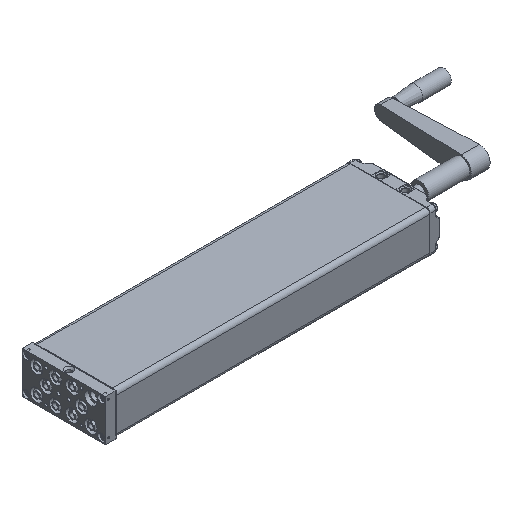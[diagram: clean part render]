
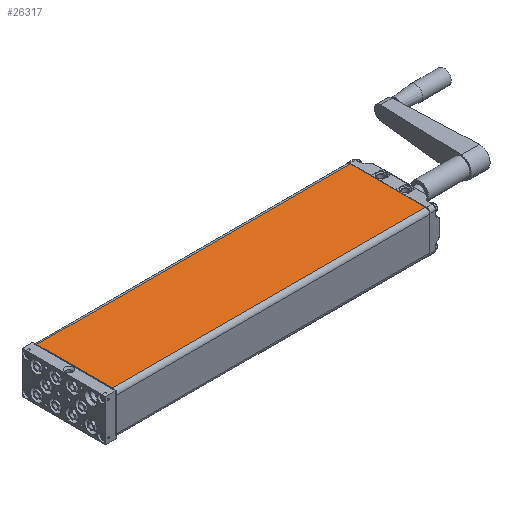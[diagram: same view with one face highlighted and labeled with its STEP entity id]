
A CAD part, isometric view. The second image highlights one B-rep face of the part: STEP entity #26317.
In plain terms, the highlighted planar face has unit normal (0, 0, 1).
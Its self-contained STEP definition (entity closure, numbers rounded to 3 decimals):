
#2480=LINE('',#63114,#3529);
#2481=LINE('',#63117,#3530);
#2482=LINE('',#63119,#3531);
#2483=LINE('',#63121,#3532);
#3529=VECTOR('',#32534,1000.);
#3530=VECTOR('',#32535,1000.);
#3531=VECTOR('',#32536,1000.);
#3532=VECTOR('',#32537,1000.);
#3945=PLANE('',#28126);
#8799=ORIENTED_EDGE('',*,*,#11799,.T.);
#8800=ORIENTED_EDGE('',*,*,#11800,.T.);
#8801=ORIENTED_EDGE('',*,*,#11801,.T.);
#8802=ORIENTED_EDGE('',*,*,#11802,.T.);
#11799=EDGE_CURVE('',#13559,#13560,#2480,.F.);
#11800=EDGE_CURVE('',#13560,#13561,#2481,.T.);
#11801=EDGE_CURVE('',#13561,#13562,#2482,.T.);
#11802=EDGE_CURVE('',#13562,#13559,#2483,.F.);
#13559=VERTEX_POINT('',#63115);
#13560=VERTEX_POINT('',#63116);
#13561=VERTEX_POINT('',#63118);
#13562=VERTEX_POINT('',#63120);
#15757=EDGE_LOOP('',(#8799,#8800,#8801,#8802));
#17276=FACE_BOUND('',#15757,.T.);
#26317=ADVANCED_FACE('',(#17276),#3945,.T.);
#28126=AXIS2_PLACEMENT_3D('',#63113,#32532,#32533);
#32532=DIRECTION('',(0.,0.,1.));
#32533=DIRECTION('',(1.,0.,0.));
#32534=DIRECTION('',(0.,-1.,0.));
#32535=DIRECTION('',(-1.,0.,0.));
#32536=DIRECTION('',(0.,-1.,0.));
#32537=DIRECTION('',(-1.,0.,0.));
#63113=CARTESIAN_POINT('',(60.,450.5,30.));
#63114=CARTESIAN_POINT('',(54.,450.5,30.));
#63115=CARTESIAN_POINT('',(54.,0.5,30.));
#63116=CARTESIAN_POINT('',(54.,450.,30.));
#63117=CARTESIAN_POINT('',(60.,450.,30.));
#63118=CARTESIAN_POINT('',(-54.,450.,30.));
#63119=CARTESIAN_POINT('',(-54.,450.5,30.));
#63120=CARTESIAN_POINT('',(-54.,0.5,30.));
#63121=CARTESIAN_POINT('',(54.,0.5,30.));
